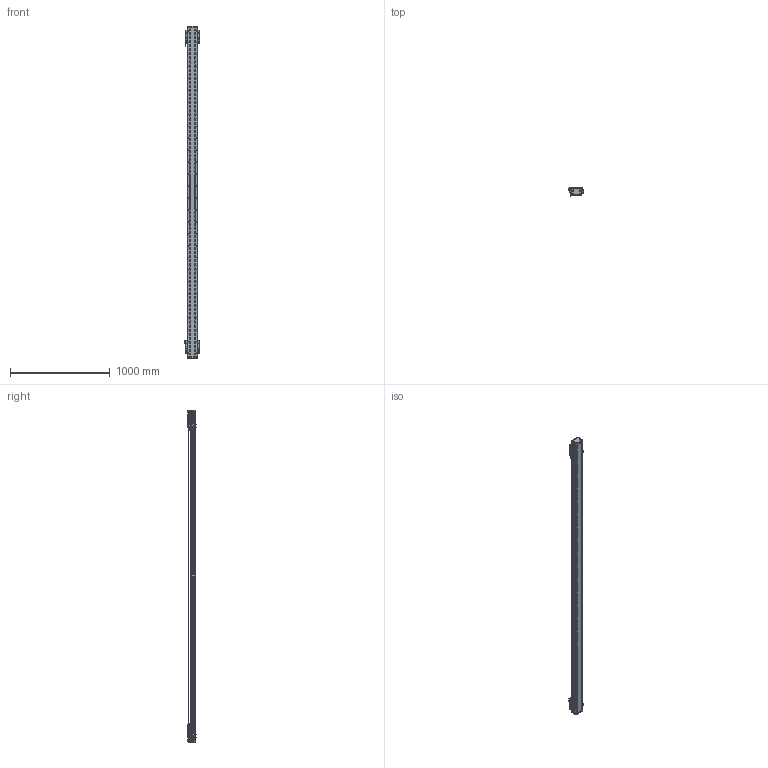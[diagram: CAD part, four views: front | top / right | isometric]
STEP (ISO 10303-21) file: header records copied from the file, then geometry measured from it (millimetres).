
FILE_DESCRIPTION (( 'STEP AP203' ), '1' );
FILE_NAME ('DA-B95-2-B15-T2960-C010-0.2 直线电机.STEP', '2023-05-06T06:44:19', ( '微软用户' ), ( '微软中国' ), 'SwSTEP 2.0', 'SolidWorks 2019', '' );
FILE_SCHEMA (( 'CONFIG_CONTROL_DESIGN' ));
Length unit declared in the file: millimetre
Products named in the file (34): PM-T45 光电开关^DA-A95-B15-T-C010-0.2-N 直线电机; 葩璃 DA95-GT-T-00^IU-BU95-L 菁釱絳寢_DA95; 66245-BU95-V 幗紩賑怢; 葩璃 BKM015-W060-C1-TP-DA-0.2^DA-A95-B15-T-C010-0.2-N 眻盄萇儂; 葩璃 DA95-B15-DP-A-00 菜えA^66245-BU95-V 幗紩賑怢; 复件 DKW-GYP-ZJ-00 中间光电感应片^DA-A95-B15-T-C010-0.2-N 直线电机; 66245-BU95-V-00 珨极趙賑雄怢啣; 复件 DA95-MFP-01 密封片^66245-BU95-V 滚珠滑台; 复件 DA95-B15 钢带盖板^DA-A95-B15-T-C010-0.2-N 直线电机; 葩璃 BKMA01-W060-TRL^DA-A95-B15-T-C010-0.2-N 眻盄萇儂; 复件 DKW-KGZ-ZJ-00 中间光电开关支架^DA-A95-B15-T-C010-0.2-N 直线电机; 复件 DA95-B15-YB-B-00 压板B^66245-BU95-V 滚珠滑台; 复件 DKW-HXJ-JY-00 缓冲橡胶^DA-A95-B15-T-C010-0.2-N 直线电机; 葩璃 DA95-B15-DP--B-00 菜えB^66245-BU95-V 幗紩賑怢; 复件 DA95-B15-YB-A-00 压板A^66245-BU95-V 滚珠滑台; 复件 复件 18252-0001-002-00 钢带垫块^DA-A95-B15-T-C010-0.2-N 直线电机; 复件 DA95-DB-00  挡板^66245-BU95-V 滚珠滑台; IU-BU95-L-00 菁釱_L3300; DA-A95-GYP-00 光电感应片^DA-A95-B15-T-C010-0.2-N 直线电机; B15 XD-U-02L ｴﾅﾕ､ｳﾟ^DA-A95-B15-T-C010-0.2-N ﾖｱﾏﾟｵ扈銈XD-U-02L; 复件 66245-BU95-HT-V-01 滑动台板^66245-BU95-V-00 一体化滑动台板; IU-BU95-L 菁釱絳寢; LMDK-2-R001-V5-L02-C1-F00，0.2M 读数头^DA-A95-B15-T-C010-0.2-N 直线电机_DMA-010-0.2; DA95-HXJ-00 缓冲橡胶^DA-A95-B15-T-C010-0.2-N 直线电机; 复件 DA95-DK-00 挡块^66245-BU95-V 滚珠滑台; DA-B95-2-B15-T2960-C010-0.2 眻盄萇儂; 葩璃 PM-Y45^DA-A95-B15-T-C010-0.2-N 眻盄萇儂; 复件 六角薄螺母 M3^DA-A95-B15-T-C010-0.2-N 直线电机_GB_FASTENER_NUT_STNAB M3-C; 复件 DA95-HK-GT-00 滑块钢轨^66245-BU95-V-00 一体化滑动台板; 复件 纯铜油杯 6x6mm^66245-BU95-V 滚珠滑台; 复件 复件 18252-0001-003-00 钢带拉块^DA-A95-B15-T-C010-0.2-N 直线电机; 复件 复件 18252-0001-004-00 钢带端盖^DA-A95-B15-T-C010-0.2-N 直线电机
Assembly tree (80 placements, depth 4):
  DA-B95-2-B15-T2960-C010-0.2 眻盄萇儂
    IU-BU95-L 菁釱絳寢
      IU-BU95-L-00 菁釱_L3300
      葩璃 DA95-GT-T-00^IU-BU95-L 菁釱絳寢_DA95  x2
    66245-BU95-V 幗紩賑怢
      66245-BU95-V-00 珨极趙賑雄怢啣
        复件 66245-BU95-HT-V-01 滑动台板^66245-BU95-V-00 一体化滑动台板
        复件 DA95-HK-GT-00 滑块钢轨^66245-BU95-V-00 一体化滑动台板  x2
      葩璃 DA95-B15-DP-A-00 菜えA^66245-BU95-V 幗紩賑怢
      复件 DA95-B15-YB-A-00 压板A^66245-BU95-V 滚珠滑台
      复件 DA95-B15-YB-B-00 压板B^66245-BU95-V 滚珠滑台
      复件 DA95-DB-00  挡板^66245-BU95-V 滚珠滑台  x4
      复件 DA95-DK-00 挡块^66245-BU95-V 滚珠滑台  x2
      复件 DA95-MFP-01 密封片^66245-BU95-V 滚珠滑台  x4
      复件 纯铜油杯 6x6mm^66245-BU95-V 滚珠滑台  x2
      葩璃 DA95-B15-DP--B-00 菜えB^66245-BU95-V 幗紩賑怢
    66245-BU95-V 幗紩賑怢
      66245-BU95-V-00 珨极趙賑雄怢啣
        复件 66245-BU95-HT-V-01 滑动台板^66245-BU95-V-00 一体化滑动台板
        复件 DA95-HK-GT-00 滑块钢轨^66245-BU95-V-00 一体化滑动台板  x2
      葩璃 DA95-B15-DP-A-00 菜えA^66245-BU95-V 幗紩賑怢
      复件 DA95-B15-YB-A-00 压板A^66245-BU95-V 滚珠滑台
      复件 DA95-B15-YB-B-00 压板B^66245-BU95-V 滚珠滑台
      复件 DA95-DB-00  挡板^66245-BU95-V 滚珠滑台  x4
      复件 DA95-DK-00 挡块^66245-BU95-V 滚珠滑台  x2
      复件 DA95-MFP-01 密封片^66245-BU95-V 滚珠滑台  x4
      复件 纯铜油杯 6x6mm^66245-BU95-V 滚珠滑台  x2
      葩璃 DA95-B15-DP--B-00 菜えB^66245-BU95-V 幗紩賑怢
    DA-A95-GYP-00 光电感应片^DA-A95-B15-T-C010-0.2-N 直线电机  x2
    LMDK-2-R001-V5-L02-C1-F00，0.2M 读数头^DA-A95-B15-T-C010-0.2-N 直线电机_DMA-010-0.2  x2
    复件 DKW-KGZ-ZJ-00 中间光电开关支架^DA-A95-B15-T-C010-0.2-N 直线电机
    葩璃 PM-Y45^DA-A95-B15-T-C010-0.2-N 眻盄萇儂
    复件 DKW-GYP-ZJ-00 中间光电感应片^DA-A95-B15-T-C010-0.2-N 直线电机
    葩璃 BKM015-W060-C1-TP-DA-0.2^DA-A95-B15-T-C010-0.2-N 眻盄萇儂  x2
    复件 DKW-HXJ-JY-00 缓冲橡胶^DA-A95-B15-T-C010-0.2-N 直线电机  x2
    PM-T45 光电开关^DA-A95-B15-T-C010-0.2-N 直线电机  x4
    B15 XD-U-02L ｴﾅﾕ､ｳﾟ^DA-A95-B15-T-C010-0.2-N ﾖｱﾏﾟｵ扈銈XD-U-02L
    复件 复件 18252-0001-003-00 钢带拉块^DA-A95-B15-T-C010-0.2-N 直线电机  x2
    复件 复件 18252-0001-002-00 钢带垫块^DA-A95-B15-T-C010-0.2-N 直线电机  x2
    复件 复件 18252-0001-004-00 钢带端盖^DA-A95-B15-T-C010-0.2-N 直线电机  x2
    复件 DA95-B15 钢带盖板^DA-A95-B15-T-C010-0.2-N 直线电机
    DA95-HXJ-00 缓冲橡胶^DA-A95-B15-T-C010-0.2-N 直线电机  x4
    葩璃 BKMA01-W060-TRL^DA-A95-B15-T-C010-0.2-N 眻盄萇儂
    复件 六角薄螺母 M3^DA-A95-B15-T-C010-0.2-N 直线电机_GB_FASTENER_NUT_STNAB M3-C  x6
Bounding box: 145.4 x 90.2 x 3336 mm (x, y, z)
Volume: 10439652.5 mm3; surface area: 3491198.8 mm2
Topology: 75 solids, 93 shells, 4548 faces, 13108 edges, 8351 vertices
Faces by surface type: cylinder 2421, plane 1595, cone 464, torus 64, sphere 4
Entity records: 118482 total; most frequent: CARTESIAN_POINT 32524, ORIENTED_EDGE 17574, DIRECTION 16670, EDGE_CURVE 8787, AXIS2_PLACEMENT_3D 6377, VERTEX_POINT 5753, VECTOR 3916, LINE 3916
